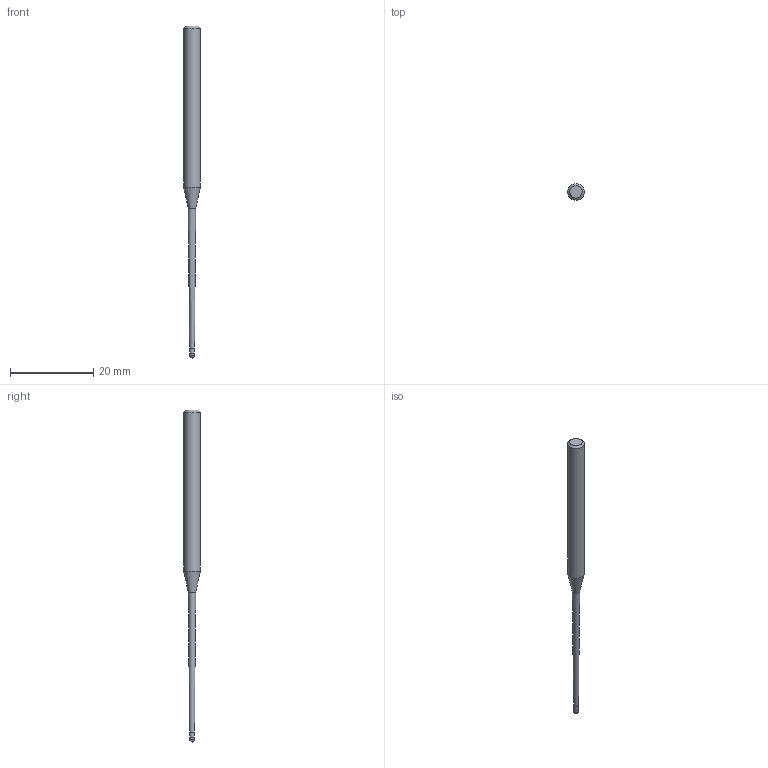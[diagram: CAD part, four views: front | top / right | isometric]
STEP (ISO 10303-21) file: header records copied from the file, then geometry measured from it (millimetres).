
FILE_DESCRIPTION((''),'2;1');
FILE_NAME('C:\Users\nsx150\AppData\Local\Temp\Mastercam 2021\SNAKH10GOD\TEMP.step','2021-10-21T13:32:32',(''),(''),'STEP Write','Mastercam 2021 ... CNC Software, Inc.','');
FILE_SCHEMA(('AUTOMOTIVE_DESIGN'));
Length unit declared in the file: millimetre
Products named in the file (1): None
Bounding box: 4 x 4 x 80 mm (x, y, z)
Volume: 583.7 mm3; surface area: 712.7 mm2
Topology: 2 solids, 2 shells, 10 faces, 16 edges, 9 vertices
Faces by surface type: plane 3, cylinder 3, cone 3, sphere 1
Full cylindrical faces by diameter (mm): 1.185 x1, 1.2 x1, 4 x1
Entity records: 232 total; most frequent: DIRECTION 40, CARTESIAN_POINT 28, AXIS2_PLACEMENT_3D 20, ORIENTED_EDGE 16, EDGE_LOOP 16, STYLED_ITEM 13, ADVANCED_FACE 10, FACE_BOUND 9
